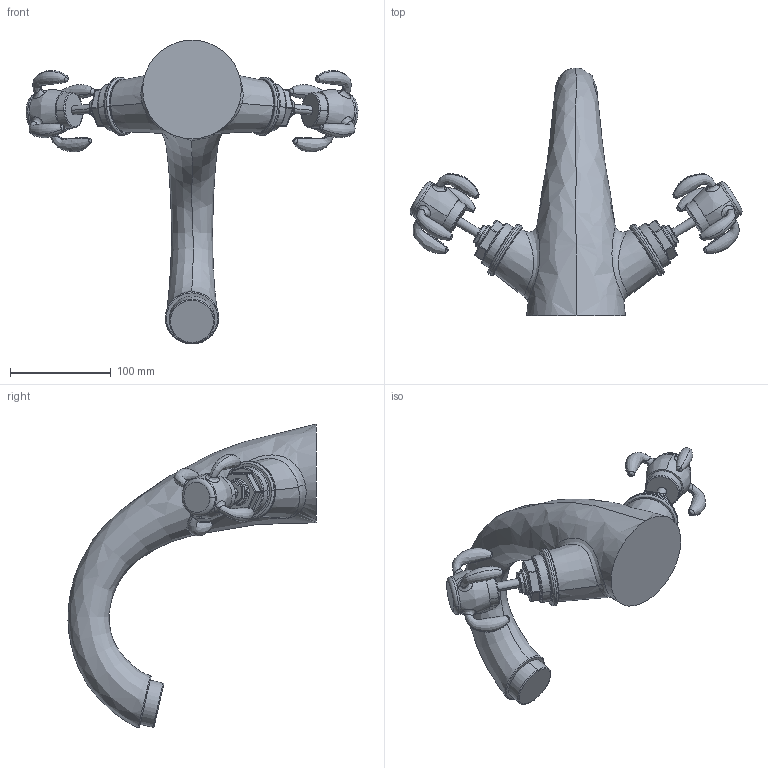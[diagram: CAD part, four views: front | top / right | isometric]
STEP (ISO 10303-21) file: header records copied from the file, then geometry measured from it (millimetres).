
FILE_DESCRIPTION (( 'STEP AP214' ), '1' );
FILE_NAME ('Paini Ornellaia 87CR243KM.STEP', '2020-04-03T12:05:51', ( 'Andrey' ), ( '' ), 'SwSTEP 2.0', 'SolidWorks 2017', '' );
FILE_SCHEMA (( 'AUTOMOTIVE_DESIGN' ));
Length unit declared in the file: millimetre
Products named in the file (1): Paini Ornellaia 87CR243KM
Bounding box: 329.63 x 246.23 x 301.67 mm (x, y, z)
Volume: 1643078.9 mm3; surface area: 137169.9 mm2
Topology: 1 solids, 1 shells, 313 faces, 732 edges, 446 vertices
Faces by surface type: cylinder 102, bspline 58, torus 56, plane 55, sphere 38, cone 4
Entity records: 22916 total; most frequent: CARTESIAN_POINT 15970, DIRECTION 1478, ORIENTED_EDGE 1444, EDGE_CURVE 722, AXIS2_PLACEMENT_3D 650, VERTEX_POINT 440, CIRCLE 394, EDGE_LOOP 342
